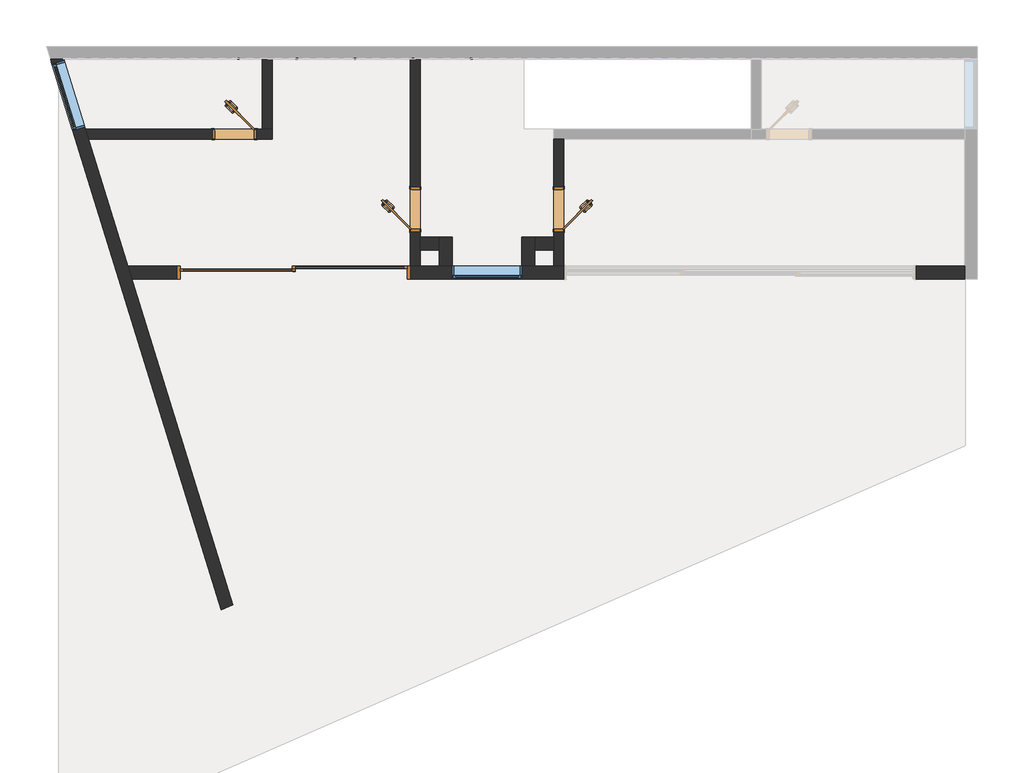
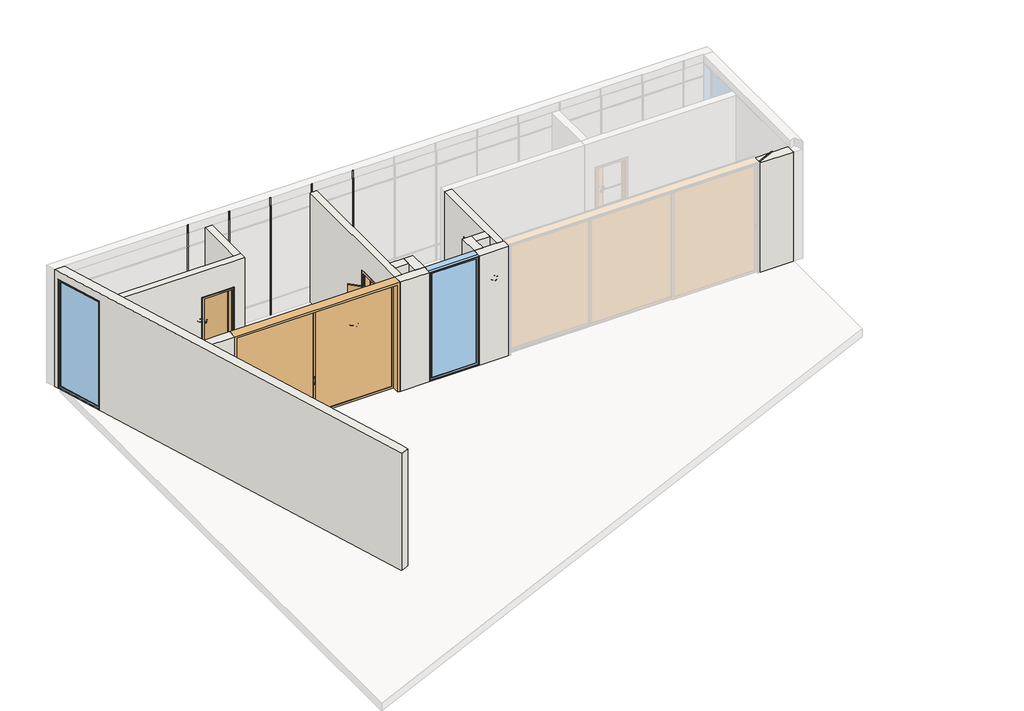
# One storey, part 1 of 2: 10 walls, 5 proxies, 4 doors, 2 windows.
"""IFC4 building model written with IfcOpenShell, lengths in millimetres."""

from ifc_helpers import new_model, si_unit, frame, origin, place, context, project, spatial, polyline, outline, extrude, faceted_brep, transform, mapped, element, save
from components import door_0_70x2_10_7b4c54ac, door_0_70x2_10_66915c29, door_220x230cm_0e1d1353, m_fixo_parede_completa_preta_2_8m_a4844c1d, m_fixo_parede_completa_preta_2_8m_2c26ef2c

model = new_model("IFC4")

# Units and contexts
model_context = context("Model", 3, world=origin())
ifc_project = project(units=[si_unit("LENGTHUNIT", "METRE", prefix="MILLI")], contexts=[model_context])

# Site, building, storey
site = spatial("IfcSite", under=ifc_project)
building = spatial("IfcBuilding", under=site)
storey = spatial("IfcBuildingStorey", under=building, Name="PÁV. SUPERIOR", Elevation=3700.0)

# Proxies
placement = place(None, origin())
element("IfcBuildingElementProxy", 1, Name="FRISO 01", ObjectType="FRISO 01", at=placement, inside=storey, context=model_context, shape_type="SweptSolid", body=[
    extrude(outline(polyline([(7561.0881727, 3700.0), (7546.0881727, 3700.0), (7546.0881727, 6500.0), (7556.0881727, 6500.0), (7556.0881727, 6700.0), (7561.0881727, 6700.0), (7561.0881727, 3700.0)])), frame((-4255.9261097, 0.0, 0.0), z_axis=(1.0, 0.0, 0.0), x_axis=(0.0, 1.0, 0.0)), (0.0, 0.0, 1.0), 30.0),
])
element("IfcBuildingElementProxy", 2, Name="FRISO 01", ObjectType="FRISO 01", at=placement, inside=storey, context=model_context, shape_type="SweptSolid", body=[
    extrude(outline(polyline([(7561.0881727, 3700.0), (7546.0881727, 3700.0), (7546.0881727, 6500.0), (7556.0881727, 6500.0), (7556.0881727, 6700.0), (7561.0881727, 6700.0), (7561.0881727, 3700.0)])), frame((-5255.9261097, 0.0, 0.0), z_axis=(1.0, 0.0, 0.0), x_axis=(0.0, 1.0, 0.0)), (0.0, 0.0, 1.0), 30.0),
])
element("IfcBuildingElementProxy", 3, Name="FRISO 01", ObjectType="FRISO 01", at=placement, inside=storey, context=model_context, shape_type="SweptSolid", body=[
    extrude(outline(polyline([(7561.0881727, 3700.0), (7546.0881727, 3700.0), (7546.0881727, 6500.0), (7556.0881727, 6500.0), (7556.0881727, 6700.0), (7561.0881727, 6700.0), (7561.0881727, 3700.0)])), frame((-6255.9261097, 0.0, 0.0), z_axis=(1.0, 0.0, 0.0), x_axis=(0.0, 1.0, 0.0)), (0.0, 0.0, 1.0), 30.0),
])
element("IfcBuildingElementProxy", 4, Name="FRISO 01", ObjectType="FRISO 01", at=placement, inside=storey, context=model_context, shape_type="SweptSolid", body=[
    extrude(outline(polyline([(7561.0881727, 3700.0), (7546.0881727, 3700.0), (7546.0881727, 6500.0), (7556.0881727, 6500.0), (7556.0881727, 6700.0), (7561.0881727, 6700.0), (7561.0881727, 3700.0)])), frame((-7255.9261097, 0.0, 0.0), z_axis=(1.0, 0.0, 0.0), x_axis=(0.0, 1.0, 0.0)), (0.0, 0.0, 1.0), 30.0),
])
element("IfcBuildingElementProxy", 5, Name="FRISO 01", ObjectType="FRISO 01", at=placement, inside=storey, context=model_context, shape_type="SweptSolid", body=[
    extrude(outline(polyline([(7561.0881727, 3700.0), (7546.0881727, 3700.0), (7546.0881727, 6500.0), (7556.0881727, 6500.0), (7556.0881727, 6700.0), (7561.0881727, 6700.0), (7561.0881727, 3700.0)])), frame((-8255.9261097, 0.0, 0.0), z_axis=(1.0, 0.0, 0.0), x_axis=(0.0, 1.0, 0.0)), (0.0, 0.0, 1.0), 30.0),
])

# Doors
door_0_70x2_10_shape = door_0_70x2_10_7b4c54ac(model_context)
element("IfcDoor", 6, ObjectType="porta de abrir simples : 0,70x2,10", at=placement, inside=storey, context=model_context, shape_type="MappedRepresentation", body=[
    mapped(door_0_70x2_10_shape, transform((-5206.1824254, 4966.629058, 3700.0), x_axis=(0.0, 1.0, 0.0), y_axis=(-1.0, 0.0, 0.0), z_axis=(0.0, 0.0, 1.0))),
])
door_0_70x2_10_2_shape = door_0_70x2_10_66915c29(model_context)
element("IfcDoor", 7, ObjectType="porta de abrir simples : 0,70x2,10", at=placement, inside=storey, context=model_context, shape_type="MappedRepresentation", body=[
    mapped(door_0_70x2_10_2_shape, transform((-8311.5118355, 6261.0881727, 3700.0), x_axis=(-1.0, 0.0, 0.0), y_axis=(0.0, -1.0, 0.0), z_axis=(0.0, 0.0, 1.0))),
])
element("IfcDoor", 8, ObjectType="porta de abrir simples : 0,70x2,10", at=placement, inside=storey, context=model_context, shape_type="MappedRepresentation", body=[
    mapped(door_0_70x2_10_2_shape, transform((-2736.1824254, 4966.629058, 3700.0), x_axis=(0.0, 1.0, 0.0), y_axis=(-1.0, 0.0, 0.0), z_axis=(0.0, 0.0, 1.0))),
])
door_220x230cm_shape = door_220x230cm_0e1d1353(model_context)
element("IfcDoor", 9, ObjectType="Porta de correr dupla envidraçada sem revestimento : 220X230CM", at=placement, inside=storey, context=model_context, shape_type="MappedRepresentation", body=[
    mapped(door_220x230cm_shape, transform((-7291.1824254, 3876.629058, 3700.0), x_axis=(-1.0, 0.0, 0.0), y_axis=(0.0, -1.0, 0.0), z_axis=(0.0, 0.0, 1.0))),
])

# Walls
element("IfcWall", 10, ObjectType="Parede Externa - 22cm", at=placement, inside=storey, context=model_context, shape_type="Brep", body=[
    faceted_brep([(3846.6404788, 3986.629058, 6500.0), (4238.4881645, 3986.629058, 6500.0), (4238.4881645, 3986.629058, 3700.0), (3408.8175746, 3986.629058, 3700.0), (3408.8175746, 3986.629058, 6500.0), (3797.8371467, 3986.629058, 6500.0), (3797.8371467, 3986.629058, 6520.0), (3846.6404788, 3986.629058, 6520.0), (4238.4881645, 3766.629058, 6500.0), (3408.8175746, 3766.629058, 6500.0), (3408.8175746, 3766.629058, 3700.0), (4238.4881645, 3766.629058, 3700.0), (3408.8175746, 3789.9299583, 6500.0), (3408.8175746, 3811.8556533, 6500.0), (3408.8175746, 3789.9299583, 6520.0), (3408.8175746, 3811.8556533, 6520.0)], [[[0, 1, 2, 3, 4, 5, 6, 7]], [[8, 9, 10, 11]], [[2, 11, 10, 3]], [[1, 0, 12, 9, 8]], [[5, 4, 13]], [[3, 10, 9, 12, 14, 15, 13, 4]], [[6, 15, 14, 7]], [[5, 13, 15, 6]], [[12, 0, 7, 14]], [[11, 2, 1, 8]]]),
    faceted_brep([(-9291.1824254, 3986.629058, 3700.0), (-10141.4582001, 3986.629058, 3700.0), (-10141.4582001, 3986.629058, 6500.0), (-9291.1824254, 3986.629058, 6500.0), (-9291.1824254, 3766.629058, 6500.0), (-10073.3673395, 3766.629058, 6500.0), (-10073.3673395, 3766.629058, 3700.0), (-9291.1824254, 3766.629058, 3700.0)], [[[0, 1, 2, 3]], [[4, 5, 6, 7]], [[1, 0, 7, 6]], [[5, 4, 3, 2]], [[0, 3, 4, 7]], [[1, 6, 5, 2]]]),
    faceted_brep([(-5291.1824254, 3986.629058, 3700.0), (-5291.1824254, 3986.629058, 6500.0), (-5121.1824254, 3986.629058, 6500.0), (-4791.1824254, 3986.629058, 6500.0), (-4571.1824254, 3986.629058, 6500.0), (-4571.1824254, 3986.629058, 3700.0), (-4791.1824254, 3986.629058, 3700.0), (-5121.1824254, 3986.629058, 3700.0), (-5291.1824254, 3766.629058, 6500.0), (-5291.1824254, 3766.629058, 3700.0), (-4571.1824254, 3766.629058, 3700.0), (-4571.1824254, 3766.629058, 6500.0)], [[[0, 1, 2, 3, 4, 5, 6, 7]], [[8, 9, 10, 11]], [[9, 0, 7, 6, 5, 10]], [[8, 11, 4, 3, 2, 1]], [[1, 0, 9, 8]], [[5, 4, 11, 10]]]),
    faceted_brep([(-2651.1824254, 3986.629058, 6500.0), (-2651.1824254, 3986.629058, 3700.0), (-2821.1824254, 3986.629058, 3700.0), (-3151.1824254, 3986.629058, 3700.0), (-3371.1824254, 3986.629058, 3700.0), (-3371.1824254, 3986.629058, 6500.0), (-3151.1824254, 3986.629058, 6500.0), (-2821.1824254, 3986.629058, 6500.0), (-2651.1824254, 3766.629058, 3700.0), (-2651.1824254, 3766.629058, 6500.0), (-3371.1824254, 3766.629058, 6500.0), (-3371.1824254, 3766.629058, 3700.0)], [[[0, 1, 2, 3, 4, 5, 6, 7]], [[8, 9, 10, 11]], [[1, 8, 11, 4, 3, 2]], [[9, 0, 7, 6, 5, 10]], [[8, 1, 0, 9]], [[5, 4, 11, 10]]]),
])
element("IfcWall", 11, ObjectType="Parede Externa - 22cm", at=placement, inside=storey, context=model_context, shape_type="Brep", body=[
    faceted_brep([(-4571.1824254, 3986.629058, 3700.0), (-4571.1824254, 4486.629058, 3700.0), (-4571.1824254, 4486.629058, 6500.0), (-4571.1824254, 3986.629058, 6500.0), (-4791.1824254, 4486.629058, 3700.0), (-4791.1824254, 4266.629058, 3700.0), (-4791.1824254, 3986.629058, 3700.0), (-4791.1824254, 3986.629058, 6500.0), (-4791.1824254, 4266.629058, 6500.0), (-4791.1824254, 4486.629058, 6500.0)], [[[0, 1, 2, 3]], [[4, 5, 6, 7, 8, 9]], [[1, 0, 6, 5, 4]], [[6, 0, 3, 7]], [[1, 4, 9, 2]], [[3, 2, 9, 8, 7]]]),
])
element("IfcWall", 12, ObjectType="Parede Externa - 22cm", at=placement, inside=storey, context=model_context, shape_type="SweptSolid", body=[
    extrude(outline(polyline([(-5121.1824254, 4486.629058), (-4791.1824254, 4486.629058), (-4791.1824254, 4266.629058), (-5121.1824254, 4266.629058), (-5121.1824254, 4486.629058)])), frame((0.0, 0.0, 3700.0), z_axis=(0.0, 0.0, 1.0), x_axis=(1.0, 0.0, 0.0)), (0.0, 0.0, 1.0), 2800.0),
])
element("IfcWall", 13, ObjectType="Parede Externa - 22cm", at=placement, inside=storey, context=model_context, shape_type="Brep", body=[
    faceted_brep([(-3151.1824254, 3986.629058, 3700.0), (-3151.1824254, 4266.629058, 3700.0), (-3151.1824254, 4486.629058, 3700.0), (-3151.1824254, 4486.629058, 6500.0), (-3151.1824254, 4266.629058, 6500.0), (-3151.1824254, 3986.629058, 6500.0), (-3371.1824254, 4486.629058, 3700.0), (-3371.1824254, 3986.629058, 3700.0), (-3371.1824254, 3986.629058, 6500.0), (-3371.1824254, 4486.629058, 6500.0)], [[[0, 1, 2, 3, 4, 5]], [[6, 7, 8, 9]], [[2, 1, 0, 7, 6]], [[7, 0, 5, 8]], [[2, 6, 9, 3]], [[5, 4, 3, 9, 8]]]),
])
element("IfcWall", 14, ObjectType="Parede Externa - 22cm", at=placement, inside=storey, context=model_context, shape_type="SweptSolid", body=[
    extrude(outline(polyline([(-2821.1824254, 4266.629058), (-3151.1824254, 4266.629058), (-3151.1824254, 4486.629058), (-2821.1824254, 4486.629058), (-2821.1824254, 4266.629058)])), frame((0.0, 0.0, 3700.0), z_axis=(0.0, 0.0, 1.0), x_axis=(1.0, 0.0, 0.0)), (0.0, 0.0, 1.0), 2800.0),
])
element("IfcWall", 15, ObjectType="Parede Externa - 22cm", at=placement, inside=storey, context=model_context, shape_type="Brep", body=[
    faceted_brep([(-8338.7059458, -1838.0218961, 6700.0), (-8338.7059458, -1838.0218961, 6500.0), (-8338.7059458, -1838.0218961, 3700.0), (-10073.3673395, 3766.629058, 3700.0), (-10141.4582001, 3986.629058, 3700.0), (-10819.1043605, 6176.0881727, 3700.0), (-10871.7200255, 6346.0881727, 3700.0), (-10882.816096, 6381.9393207, 3700.0), (-10882.816096, 6381.9393207, 6500.0), (-11237.615754, 7528.2888323, 6500.0), (-11237.615754, 7528.2888323, 3700.0), (-11243.1247194, 7546.0881727, 3700.0), (-11243.1247194, 7546.0881727, 4080.0), (-11243.1247194, 7546.0881727, 4110.0), (-11243.1247194, 7546.0881727, 6140.0), (-11243.1247194, 7546.0881727, 6170.0), (-11243.1247194, 7546.0881727, 6500.0), (-11243.1247194, 7546.0881727, 6700.0), (-8404.1674124, -1626.5174074, 6700.0), (-8541.5118355, -1926.842634, 6700.0), (-11473.4209749, 7546.0881727, 6700.0), (-11473.4209749, 7546.0881727, 3700.0), (-11447.7798311, 7463.2422283, 3700.0), (-11447.7798311, 7463.2422283, 6500.0), (-11092.9801731, 6316.8927167, 6500.0), (-11092.9801731, 6316.8927167, 3700.0), (-8541.5118355, -1926.842634, 3700.0)], [[[0, 1, 2, 3, 4, 5, 6, 7, 8, 9, 10, 11, 12, 13, 14, 15, 16, 17, 18]], [[19, 20, 21, 22, 23, 24, 25, 26]], [[21, 11, 10, 22]], [[2, 26, 25, 7, 6, 5, 4, 3]], [[20, 19, 0, 18, 17]], [[11, 21, 20, 17, 16, 15, 14, 13, 12]], [[2, 1, 0, 19, 26]], [[23, 22, 10, 9]], [[8, 24, 23, 9]], [[24, 8, 7, 25]]]),
])
element("IfcWall", 16, ObjectType="Parede Interna - 17 cm", at=placement, inside=storey, context=model_context, shape_type="Brep", body=[
    faceted_brep([(-5291.1824254, 5346.629058, 3700.0), (-5291.1824254, 5346.629058, 5830.0), (-5291.1824254, 4586.629058, 5830.0), (-5291.1824254, 4586.629058, 3700.0), (-5291.1824254, 3986.629058, 3700.0), (-5291.1824254, 3986.629058, 6500.0), (-5291.1824254, 7546.0881727, 6500.0), (-5291.1824254, 7546.0881727, 3700.0), (-5121.1824254, 5346.629058, 5830.0), (-5121.1824254, 5346.629058, 3700.0), (-5121.1824254, 7546.0881727, 3700.0), (-5121.1824254, 7546.0881727, 6500.0), (-5121.1824254, 4486.629058, 6500.0), (-5121.1824254, 4266.629058, 6500.0), (-5121.1824254, 3986.629058, 6500.0), (-5121.1824254, 3986.629058, 3700.0), (-5121.1824254, 4266.629058, 3700.0), (-5121.1824254, 4486.629058, 3700.0), (-5121.1824254, 4586.629058, 3700.0), (-5121.1824254, 4586.629058, 5830.0), (-5255.9261097, 7546.0881727, 3700.0), (-5225.9261097, 7546.0881727, 3700.0), (-5255.9261097, 7546.0881727, 6500.0), (-5225.9261097, 7546.0881727, 6500.0)], [[[0, 1, 2, 3, 4, 5, 6, 7]], [[8, 9, 10, 11, 12, 13, 14, 15, 16, 17, 18, 19]], [[15, 4, 3, 18, 17, 16]], [[7, 20, 21, 10, 9, 0]], [[4, 15, 14, 5]], [[10, 21, 20, 7, 6, 22, 23, 11]], [[8, 1, 0, 9]], [[1, 8, 19, 2]], [[2, 19, 18, 3]], [[6, 5, 14, 13, 12, 11, 23, 22]]]),
])
element("IfcWall", 17, ObjectType="Parede Interna - 17 cm", at=placement, inside=storey, context=model_context, shape_type="Brep", body=[
    faceted_brep([(-2651.1824254, 5346.629058, 3700.0), (-2651.1824254, 6176.0881727, 3700.0), (-2651.1824254, 6176.0881727, 6500.0), (-2651.1824254, 3986.629058, 6500.0), (-2651.1824254, 3986.629058, 3700.0), (-2651.1824254, 4586.629058, 3700.0), (-2651.1824254, 4586.629058, 5830.0), (-2651.1824254, 5346.629058, 5830.0), (-2821.1824254, 6176.0881727, 3700.0), (-2821.1824254, 5346.629058, 3700.0), (-2821.1824254, 5346.629058, 5830.0), (-2821.1824254, 4586.629058, 5830.0), (-2821.1824254, 4586.629058, 3700.0), (-2821.1824254, 4486.629058, 3700.0), (-2821.1824254, 4266.629058, 3700.0), (-2821.1824254, 3986.629058, 3700.0), (-2821.1824254, 3986.629058, 6500.0), (-2821.1824254, 4266.629058, 6500.0), (-2821.1824254, 4486.629058, 6500.0), (-2821.1824254, 6176.0881727, 6500.0)], [[[0, 1, 2, 3, 4, 5, 6, 7]], [[8, 9, 10, 11, 12, 13, 14, 15, 16, 17, 18, 19]], [[4, 15, 14, 13, 12, 5]], [[8, 1, 0, 9]], [[15, 4, 3, 16]], [[1, 8, 19, 2]], [[7, 10, 9, 0]], [[10, 7, 6, 11]], [[11, 6, 5, 12]], [[3, 2, 19, 18, 17, 16]]]),
])
element("IfcWall", 18, ObjectType="Parede Interna - 17 cm", at=placement, inside=storey, context=model_context, shape_type="Brep", body=[
    faceted_brep([(-10819.1043605, 6176.0881727, 3700.0), (-8691.5118355, 6176.0881727, 3700.0), (-8691.5118355, 6176.0881727, 5830.0), (-7931.5118355, 6176.0881727, 5830.0), (-7931.5118355, 6176.0881727, 3700.0), (-7661.5118355, 6176.0881727, 3700.0), (-7661.5118355, 6176.0881727, 6500.0), (-10819.1043605, 6176.0881727, 6500.0), (-8691.5118355, 6346.0881727, 3700.0), (-10871.7200255, 6346.0881727, 3700.0), (-10871.7200255, 6346.0881727, 6500.0), (-7831.5118355, 6346.0881727, 6500.0), (-7661.5118355, 6346.0881727, 6500.0), (-7661.5118355, 6346.0881727, 3700.0), (-7831.5118355, 6346.0881727, 3700.0), (-7931.5118355, 6346.0881727, 3700.0), (-7931.5118355, 6346.0881727, 5830.0), (-8691.5118355, 6346.0881727, 5830.0)], [[[0, 1, 2, 3, 4, 5, 6, 7]], [[8, 9, 10, 11, 12, 13, 14, 15, 16, 17]], [[1, 0, 9, 8]], [[5, 4, 15, 14, 13]], [[17, 2, 1, 8]], [[2, 17, 16, 3]], [[3, 16, 15, 4]], [[5, 13, 12, 6]], [[7, 6, 12, 11, 10]], [[9, 0, 7, 10]]]),
])
element("IfcWall", 19, ObjectType="Parede Interna - 17 cm", at=placement, inside=storey, context=model_context, shape_type="SweptSolid", body=[
    extrude(outline(polyline([(-7661.5118355, 7546.0881727), (-7661.5118355, 6346.0881727), (-7831.5118355, 6346.0881727), (-7831.5118355, 7546.0881727), (-7661.5118355, 7546.0881727)])), frame((0.0, 0.0, 3700.0), z_axis=(0.0, 0.0, 1.0), x_axis=(1.0, 0.0, 0.0)), (0.0, 0.0, 1.0), 2800.0),
])

# Windows
m_fixo_parede_completa_preta_2_8m_shape = m_fixo_parede_completa_preta_2_8m_a4844c1d(model_context)
element("IfcWindow", 20, ObjectType="M_Fixo : PAREDE COMPLETA - PRETA - 2,8m", at=placement, inside=storey, context=model_context, shape_type="MappedRepresentation", body=[
    mapped(m_fixo_parede_completa_preta_2_8m_shape, transform((-3971.1824254, 3889.629058, 2200.0), x_axis=(-1.0, 0.0, 0.0), y_axis=(0.0, -1.0, 0.0), z_axis=(0.0, 0.0, 1.0))),
])
m_fixo_parede_completa_preta_2_8m_2_shape = m_fixo_parede_completa_preta_2_8m_2c26ef2c(model_context)
element("IfcWindow", 21, ObjectType="M_Fixo : PAREDE COMPLETA - PRETA - 2,8m", at=placement, inside=storey, context=model_context, shape_type="MappedRepresentation", body=[
    mapped(m_fixo_parede_completa_preta_2_8m_2_shape, transform((-11152.8791772, 6926.4344374, 2200.0), x_axis=(0.29566638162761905, -0.955291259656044, 0.0), y_axis=(0.955291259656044, 0.29566638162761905, 0.0), z_axis=(0.0, 0.0, 1.0))),
])

save(model, "model.ifc")
